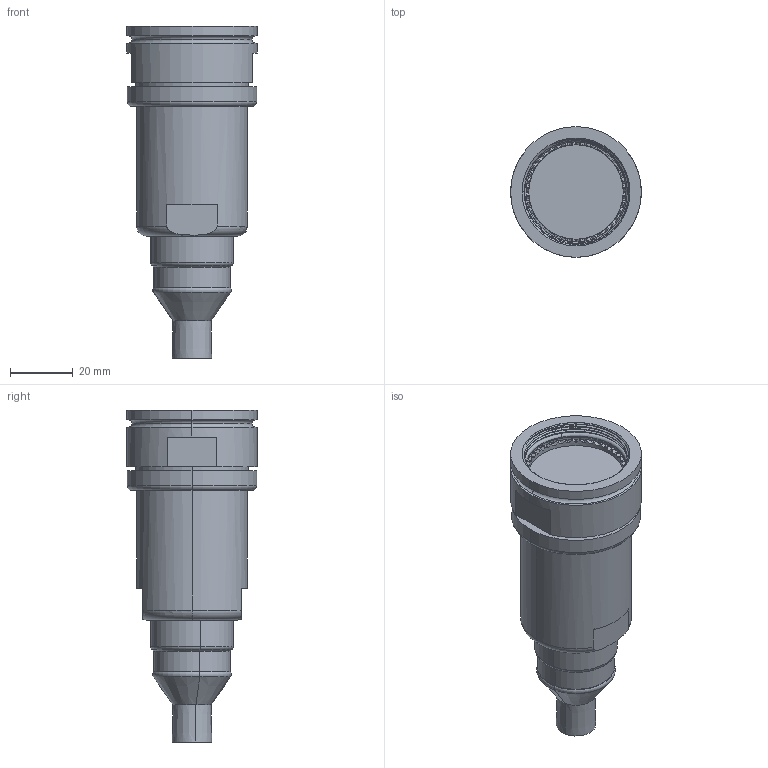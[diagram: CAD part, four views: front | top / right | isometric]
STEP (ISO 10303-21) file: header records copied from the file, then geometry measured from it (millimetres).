
FILE_DESCRIPTION (( 'STEP AP214' ), '1' );
FILE_NAME ('Q38SHELL-STX-23-XXXX-HX.STEP', '2025-09-09T18:32:18', ( '' ), ( '' ), 'SwSTEP 2.0', 'SolidWorks 2024', '' );
FILE_SCHEMA (( 'AUTOMOTIVE_DESIGN' ));
Length unit declared in the file: millimetre
Products named in the file (1): Q38SHELL-STX-23-XXXX-HX
Bounding box: 41.78 x 41.78 x 106.13 mm (x, y, z)
Volume: 77294.7 mm3; surface area: 17613 mm2
Topology: 2 solids, 2 shells, 264 faces, 706 edges, 460 vertices
Faces by surface type: plane 186, cylinder 37, cone 20, torus 18, bspline 3
Entity records: 9272 total; most frequent: CARTESIAN_POINT 2914, ORIENTED_EDGE 1412, DIRECTION 1338, EDGE_CURVE 706, AXIS2_PLACEMENT_3D 554, VERTEX_POINT 460, CIRCLE 292, EDGE_LOOP 280
